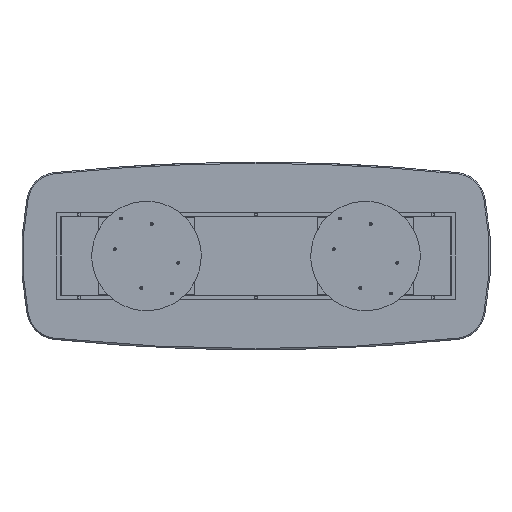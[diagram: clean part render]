
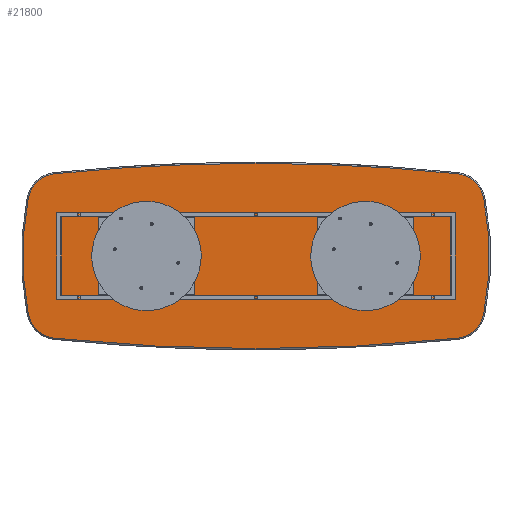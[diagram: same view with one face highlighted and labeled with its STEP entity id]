
A CAD part, front view. The second image highlights one B-rep face of the part: STEP entity #21800.
In plain terms, the highlighted planar face has unit normal (0, -1, 0).
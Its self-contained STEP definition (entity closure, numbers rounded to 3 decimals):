
#173 = CARTESIAN_POINT ( 'NONE',  ( 1454.991, 0., -372.386 ) ) ;
#325 = CARTESIAN_POINT ( 'NONE',  ( 0., 0., -11900. ) ) ;
#398 = CARTESIAN_POINT ( 'NONE',  ( 1454.991, 0., 372.386 ) ) ;
#548 = CARTESIAN_POINT ( 'NONE',  ( -1266.747, 0., 334.597 ) ) ;
#719 = AXIS2_PLACEMENT_3D ( 'NONE', #548, #773, #9063 ) ;
#773 = DIRECTION ( 'NONE',  ( 0., -1., 0. ) ) ;
#1379 = CARTESIAN_POINT ( 'NONE',  ( -1454.991, 0., -372.386 ) ) ;
#1414 = CARTESIAN_POINT ( 'NONE',  ( 1286.52, 0., 525.576 ) ) ;
#1516 = CARTESIAN_POINT ( 'NONE',  ( -1266.747, 0., -334.597 ) ) ;
#1592 = CARTESIAN_POINT ( 'NONE',  ( 400., 0., 0. ) ) ;
#1651 = AXIS2_PLACEMENT_3D ( 'NONE', #1592, #9768, #4828 ) ;
#1726 = EDGE_CURVE ( 'NONE', #6813, #10637, #17452, .T. ) ;
#2004 = CIRCLE ( 'NONE', #15374, 192. ) ;
#2708 = AXIS2_PLACEMENT_3D ( 'NONE', #19288, #15731, #21170 ) ;
#3191 = DIRECTION ( 'NONE',  ( 0., 0., 1. ) ) ;
#3682 = ORIENTED_EDGE ( 'NONE', *, *, #18567, .T. ) ;
#3774 = CARTESIAN_POINT ( 'NONE',  ( 1266.747, 0., -334.597 ) ) ;
#4113 = AXIS2_PLACEMENT_3D ( 'NONE', #14533, #19644, #4529 ) ;
#4529 = DIRECTION ( 'NONE',  ( 0., 0., 1. ) ) ;
#4828 = DIRECTION ( 'NONE',  ( 0., 0., 1. ) ) ;
#5269 = CARTESIAN_POINT ( 'NONE',  ( 0., 0., -11900. ) ) ;
#5381 = DIRECTION ( 'NONE',  ( 0., 0., 1. ) ) ;
#5398 = CIRCLE ( 'NONE', #19490, 192. ) ;
#5725 = FACE_OUTER_BOUND ( 'NONE', #8407, .T. ) ;
#6559 = EDGE_CURVE ( 'NONE', #18164, #13919, #5398, .T. ) ;
#6677 = EDGE_CURVE ( 'NONE', #13919, #16376, #13876, .T. ) ;
#6813 = VERTEX_POINT ( 'NONE', #1414 ) ;
#7063 = DIRECTION ( 'NONE',  ( 0., -1., 0. ) ) ;
#7650 = CARTESIAN_POINT ( 'NONE',  ( -1286.52, 0., -525.576 ) ) ;
#7888 = EDGE_CURVE ( 'NONE', #14981, #17752, #11981, .T. ) ;
#8277 = DIRECTION ( 'NONE',  ( 0., -1., 0. ) ) ;
#8407 = EDGE_LOOP ( 'NONE', ( #3682, #21698, #12009, #18788, #8994, #19713, #13201, #14819, #13557 ) ) ;
#8521 = DIRECTION ( 'NONE',  ( 0., 0., 1. ) ) ;
#8994 = ORIENTED_EDGE ( 'NONE', *, *, #16154, .T. ) ;
#9063 = DIRECTION ( 'NONE',  ( 0., 0., 1. ) ) ;
#9164 = DIRECTION ( 'NONE',  ( 0., -1., 0. ) ) ;
#9768 = DIRECTION ( 'NONE',  ( 0., -1., 0. ) ) ;
#10107 = CIRCLE ( 'NONE', #1651, 1892. ) ;
#10637 = VERTEX_POINT ( 'NONE', #10990 ) ;
#10765 = CIRCLE ( 'NONE', #19241, 12492. ) ;
#10990 = CARTESIAN_POINT ( 'NONE',  ( 0., 0., 592. ) ) ;
#10994 = DIRECTION ( 'NONE',  ( 0., 0., 1. ) ) ;
#11249 = DIRECTION ( 'NONE',  ( 0., 0., 1. ) ) ;
#11981 = CIRCLE ( 'NONE', #719, 192. ) ;
#12009 = ORIENTED_EDGE ( 'NONE', *, *, #6559, .T. ) ;
#12679 = DIRECTION ( 'NONE',  ( 0., -1., 0. ) ) ;
#12859 = CIRCLE ( 'NONE', #15677, 12492. ) ;
#12876 = VERTEX_POINT ( 'NONE', #7650 ) ;
#13170 = AXIS2_PLACEMENT_3D ( 'NONE', #17755, #12679, #11249 ) ;
#13201 = ORIENTED_EDGE ( 'NONE', *, *, #20248, .T. ) ;
#13557 = ORIENTED_EDGE ( 'NONE', *, *, #16857, .T. ) ;
#13876 = CIRCLE ( 'NONE', #13170, 1892. ) ;
#13919 = VERTEX_POINT ( 'NONE', #173 ) ;
#14533 = CARTESIAN_POINT ( 'NONE',  ( 1266.747, 0., 334.597 ) ) ;
#14819 = ORIENTED_EDGE ( 'NONE', *, *, #7888, .T. ) ;
#14981 = VERTEX_POINT ( 'NONE', #15969 ) ;
#15102 = CARTESIAN_POINT ( 'NONE',  ( 1286.52, 0., -525.576 ) ) ;
#15362 = EDGE_CURVE ( 'NONE', #12876, #18164, #10765, .T. ) ;
#15374 = AXIS2_PLACEMENT_3D ( 'NONE', #1516, #8277, #3191 ) ;
#15657 = DIRECTION ( 'NONE',  ( 0., 0., 1. ) ) ;
#15677 = AXIS2_PLACEMENT_3D ( 'NONE', #5269, #18806, #5381 ) ;
#15731 = DIRECTION ( 'NONE',  ( 0., 1., 0. ) ) ;
#15835 = DIRECTION ( 'NONE',  ( 0., -1., 0. ) ) ;
#15969 = CARTESIAN_POINT ( 'NONE',  ( -1286.52, 0., 525.576 ) ) ;
#16049 = AXIS2_PLACEMENT_3D ( 'NONE', #325, #7063, #8521 ) ;
#16154 = EDGE_CURVE ( 'NONE', #16376, #6813, #21398, .T. ) ;
#16376 = VERTEX_POINT ( 'NONE', #398 ) ;
#16812 = VERTEX_POINT ( 'NONE', #1379 ) ;
#16857 = EDGE_CURVE ( 'NONE', #17752, #16812, #10107, .T. ) ;
#17333 = CARTESIAN_POINT ( 'NONE',  ( -1454.991, 0., 372.386 ) ) ;
#17452 = CIRCLE ( 'NONE', #16049, 12492. ) ;
#17490 = CARTESIAN_POINT ( 'NONE',  ( 0., 0., 11900. ) ) ;
#17752 = VERTEX_POINT ( 'NONE', #17333 ) ;
#17755 = CARTESIAN_POINT ( 'NONE',  ( -400., 0., 0. ) ) ;
#18164 = VERTEX_POINT ( 'NONE', #15102 ) ;
#18567 = EDGE_CURVE ( 'NONE', #16812, #12876, #2004, .T. ) ;
#18788 = ORIENTED_EDGE ( 'NONE', *, *, #6677, .T. ) ;
#18806 = DIRECTION ( 'NONE',  ( 0., -1., 0. ) ) ;
#19241 = AXIS2_PLACEMENT_3D ( 'NONE', #17490, #15835, #10994 ) ;
#19288 = CARTESIAN_POINT ( 'NONE',  ( -200., 0., 5950. ) ) ;
#19398 = PLANE ( 'NONE',  #2708 ) ;
#19490 = AXIS2_PLACEMENT_3D ( 'NONE', #3774, #9164, #15657 ) ;
#19644 = DIRECTION ( 'NONE',  ( 0., -1., 0. ) ) ;
#19713 = ORIENTED_EDGE ( 'NONE', *, *, #1726, .T. ) ;
#20248 = EDGE_CURVE ( 'NONE', #10637, #14981, #12859, .T. ) ;
#21170 = DIRECTION ( 'NONE',  ( 0., 0., 1. ) ) ;
#21398 = CIRCLE ( 'NONE', #4113, 192. ) ;
#21698 = ORIENTED_EDGE ( 'NONE', *, *, #15362, .T. ) ;
#21800 = ADVANCED_FACE ( 'NONE', ( #5725 ), #19398, .F. ) ;
